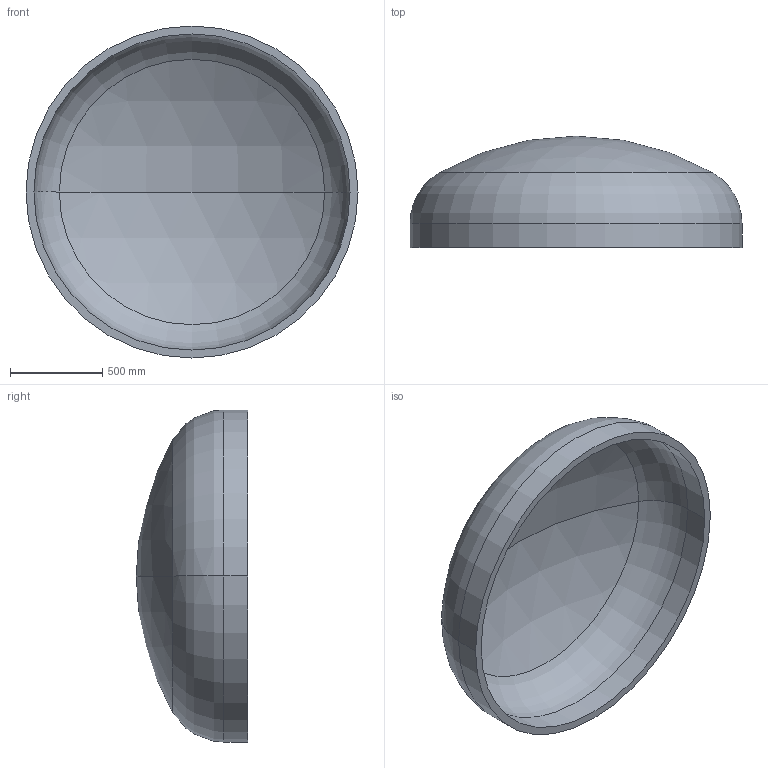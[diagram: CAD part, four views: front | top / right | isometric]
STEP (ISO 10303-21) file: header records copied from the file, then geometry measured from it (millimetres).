
FILE_DESCRIPTION (( 'STEP AP203' ), '1' );
FILE_NAME ('DIN 28013 Korbbogenform_-_Boden DIN 28013 - 1800 x 130 - I - s=43.step', '2016-07-01T12:30:59', ( '' ), ( '' ), 'SwSTEP 2.0', 'SolidWorks 2013', '' );
FILE_SCHEMA (( 'CONFIG_CONTROL_DESIGN' ));
Length unit declared in the file: millimetre
Products named in the file (1): DIN 28013 Korbbogenform_-_Boden DIN 28013 - 1800 x 130 - I - s=43
Bounding box: 1800 x 603.79 x 1800 mm (x, y, z)
Volume: 177491755.1 mm3; surface area: 8496651 mm2
Topology: 1 solids, 1 shells, 13 faces, 24 edges, 14 vertices
Faces by surface type: torus 4, cylinder 4, sphere 4, plane 1
Entity records: 407 total; most frequent: DIRECTION 72, CARTESIAN_POINT 52, ORIENTED_EDGE 48, AXIS2_PLACEMENT_3D 34, EDGE_CURVE 24, CIRCLE 20, EDGE_LOOP 14, VERTEX_POINT 14
